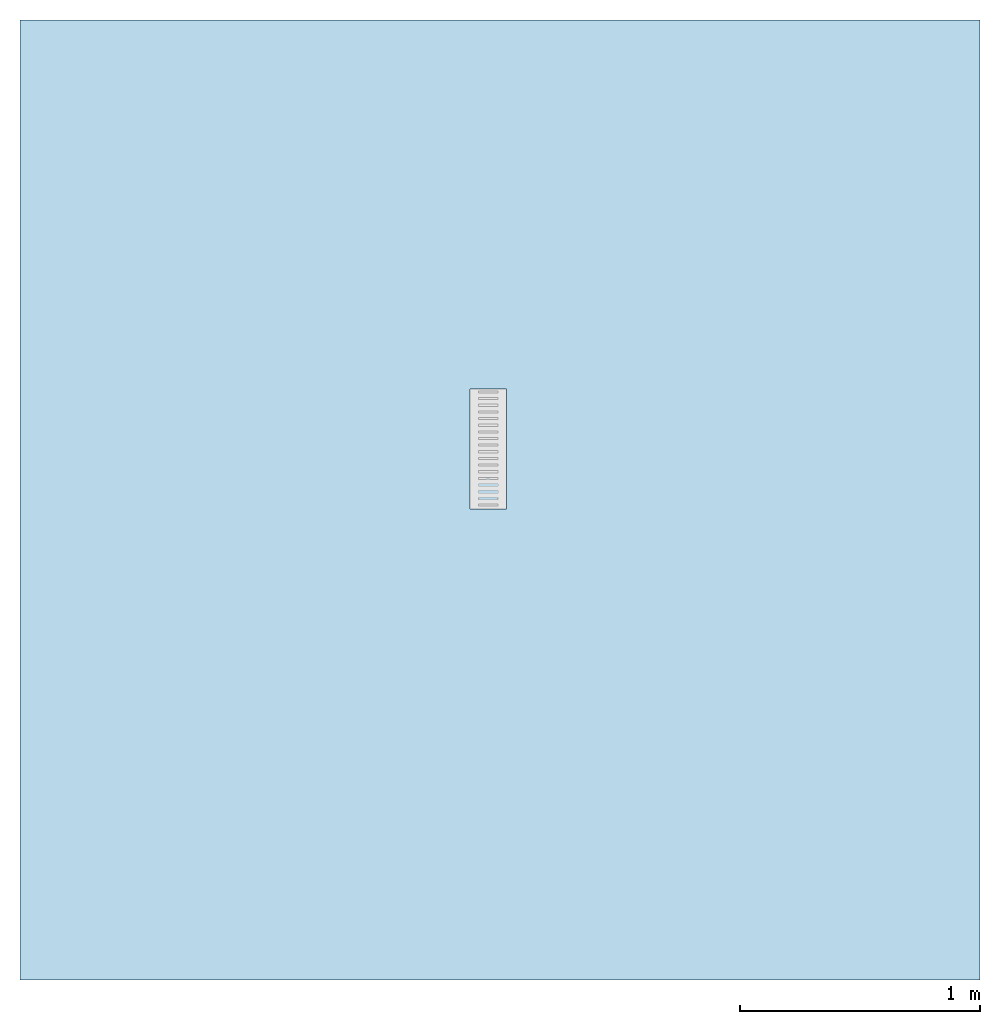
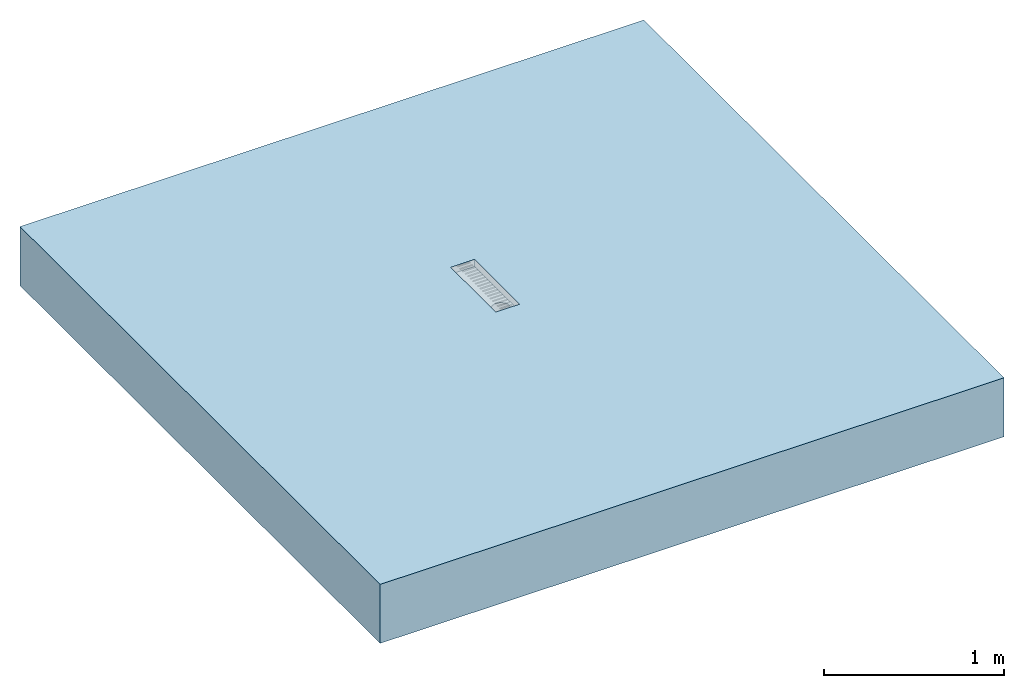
# One storey, incomplete: 1 slab, 1 opening.
"""IFC2X3 building model written with IfcOpenShell, lengths in millimetres."""

from ifc_helpers import new_model, entity, si_unit, converted_unit, direction, frame, frame_2d, origin, place, context, subcontext, project, spatial, rectangle, extrude, faceted_brep, material, layer, layer_set, layer_usage, element, save


model = new_model("IFC2X3")

# Units and contexts
model_context = context("Model", 3, precision=1e-06, world=origin(), true_north=direction((2.0, 6.12303176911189e-17, 1.0)))
context_of_model = context(None, 3, precision=1e-06, world=origin(), true_north=direction((2.0, 6.12303176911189e-17, 1.0)))
body_context = subcontext(model_context, "Body", "Model", "MODEL_VIEW")
ifc_project = project(units=[si_unit("LENGTHUNIT", "METRE", prefix="MILLI"), si_unit("AREAUNIT", "SQUARE_METRE", prefix="MILLI"), si_unit("VOLUMEUNIT", "CUBIC_METRE", prefix="MILLI"), converted_unit("PLANEANGLEUNIT", "DEGREE", entity("IfcRatioMeasure", 0.0174532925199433), si_unit("PLANEANGLEUNIT", "RADIAN"), dimensions=[0, 0, 0, 0, 0, 0, 0]), si_unit("TIMEUNIT", "SECOND")], contexts=[model_context, context_of_model])

# Site, building, storey
site_placement = place(None, origin())
site = spatial("IfcSite", under=ifc_project, at=site_placement, Name="Default", CompositionType="ELEMENT")
building_placement = place(site_placement, origin())
building = spatial("IfcBuilding", under=site, at=building_placement, CompositionType="ELEMENT")
storey_placement = place(building_placement, origin())
storey = spatial("IfcBuildingStorey", under=building, at=storey_placement, Name="Level 1", CompositionType="ELEMENT", Elevation=0.0)

# Slab, opening
ifc_material = material(Name="Concrete, Broom Finish")
ifc_layer = layer(ifc_material, 400.0)
ifc_layer_set = layer_set([ifc_layer], Name="Floor:Generic Floor - 400mm")
ifc_layer_usage = layer_usage(ifc_layer_set, "AXIS3", "POSITIVE", 0.0)
slab_placement = place(storey_placement, origin())
slab = element("IfcSlab", 1, at=slab_placement, inside=storey, material=ifc_layer_usage, Name="Floor:Generic Floor - 400mm", ObjectType="Floor:Generic Floor - 400mm", PredefinedType="FLOOR", context=body_context, shape_type="SweptSolid", body=[
    extrude(rectangle(XDim=4000.0, YDim=4000.0, at=frame_2d((0.0, 0.0), x_axis=(0.0, -1.0))), frame((-42.176138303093, 0.318612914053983, 0.0), z_axis=(0.0, 0.0, -1.0), x_axis=(-1.0, 0.0, 0.0)), (0.0, 0.0, 1.0), 400.0),
])
opening_placement = place(slab_placement, frame((-167.978791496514, -37.0934630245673, -166.999997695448)))
element("IfcOpeningElement", 2, at=opening_placement, cuts=slab, ObjectType="Recess", context=body_context, shape_type="Brep", body=[
    faceted_brep([(0.0, 0.0, 120.194915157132), (153.0, 0.0, 167.000007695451), (153.0, 0.0, 120.194915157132), (0.0, 0.0, 167.000007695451), (153.0, 500.0, 120.194915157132), (0.0, 500.0, 167.000007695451), (0.0, 500.0, 120.194915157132), (153.0, 500.0, 167.000007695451), (76.4999999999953, 20.0, 120.194915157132), (62.2649525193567, 21.8740795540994, 120.194915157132), (49.0, 27.3686027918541, 120.194915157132), (28.8686027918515, 47.4999999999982, 120.194915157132), (23.3740795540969, 60.7649525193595, 120.194915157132), (37.6091270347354, 36.1091270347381, 120.194915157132), (21.4999999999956, 75.0, 120.194915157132), (104.0, 27.3686027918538, 120.194915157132), (90.7350474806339, 21.8740795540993, 120.194915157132), (115.390872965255, 36.1091270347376, 120.194915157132), (124.13139720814, 47.4999999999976, 120.194915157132), (131.499999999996, 75.0, 120.194915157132), (129.625920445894, 60.7649525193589, 120.194915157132), (129.625920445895, 89.2350474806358, 120.194915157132), (23.3740795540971, 89.2350474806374, 120.194915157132), (28.8686027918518, 102.499999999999, 120.194915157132), (49.0, 122.631397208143, 120.194915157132), (37.6091270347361, 113.890872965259, 120.194915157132), (62.2649525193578, 128.125920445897, 120.194915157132), (76.4999999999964, 130.0, 120.194915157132), (115.390872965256, 113.890872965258, 120.194915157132), (124.13139720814, 102.499999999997, 120.194915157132), (90.7350474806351, 128.125920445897, 120.194915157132), (104.0, 122.631397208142, 120.194915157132), (76.4999999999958, 130.0, 0.0), (28.8686027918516, 102.499999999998, 0.0), (90.7350474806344, 128.125920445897, 0.0), (104.0, 122.631397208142, 0.0), (115.390872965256, 113.890872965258, 0.0), (129.625920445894, 89.2350474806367, 0.0), (124.13139720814, 102.499999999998, 0.0), (23.3740795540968, 60.7649525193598, 0.0), (62.2649525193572, 128.125920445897, 0.0), (49.0, 122.631397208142, 0.0), (37.6091270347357, 113.890872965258, 0.0), (21.4999999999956, 75.0, 0.0), (23.3740795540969, 89.235047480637, 0.0), (129.625920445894, 60.7649525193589, 0.0), (124.131397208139, 47.4999999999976, 0.0), (28.8686027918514, 47.4999999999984, 0.0), (76.4999999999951, 20.0, 0.0), (104.0, 27.3686027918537, 0.0), (115.390872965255, 36.1091270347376, 0.0), (90.7350474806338, 21.8740795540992, 0.0), (37.6091270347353, 36.1091270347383, 0.0), (62.2649525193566, 21.8740795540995, 0.0), (49.0, 27.3686027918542, 0.0), (131.499999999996, 75.0, 0.0)], [[[0, 1, 2]], [[1, 0, 3]], [[4, 5, 6]], [[5, 4, 7]], [[7, 1, 3]], [[3, 5, 7]], [[6, 3, 0]], [[3, 6, 5]], [[8, 9, 0]], [[10, 0, 9]], [[2, 8, 0]], [[0, 11, 12]], [[0, 10, 13]], [[0, 13, 11]], [[12, 14, 0]], [[15, 16, 2]], [[8, 2, 16]], [[17, 15, 2]], [[2, 18, 17]], [[2, 19, 20]], [[2, 20, 18]], [[21, 19, 2]], [[22, 0, 14]], [[6, 22, 23]], [[24, 6, 25]], [[23, 25, 6]], [[6, 24, 26]], [[26, 27, 6]], [[22, 6, 0]], [[4, 28, 29]], [[4, 29, 21]], [[4, 27, 30]], [[28, 4, 31]], [[30, 31, 4]], [[4, 6, 27]], [[2, 4, 21]], [[7, 2, 1]], [[2, 7, 4]], [[32, 33, 34]], [[35, 34, 36]], [[37, 38, 36]], [[33, 36, 34]], [[33, 39, 36]], [[40, 41, 32]], [[41, 42, 32]], [[43, 39, 44]], [[33, 32, 42]], [[39, 33, 44]], [[37, 36, 39]], [[45, 37, 46]], [[46, 37, 47]], [[48, 49, 46]], [[50, 46, 49]], [[49, 48, 51]], [[52, 53, 47]], [[47, 37, 39]], [[54, 53, 52]], [[53, 46, 47]], [[46, 53, 48]], [[55, 37, 45]], [[21, 37, 55]], [[34, 35, 31]], [[36, 28, 35]], [[32, 34, 30]], [[21, 29, 37]], [[55, 19, 21]], [[29, 28, 38]], [[28, 36, 38]], [[31, 35, 28]], [[31, 30, 34]], [[37, 29, 38]], [[30, 27, 32]], [[41, 40, 26]], [[41, 24, 42]], [[44, 33, 23]], [[25, 33, 42]], [[43, 44, 22]], [[27, 26, 40]], [[26, 24, 41]], [[24, 25, 42]], [[43, 22, 14]], [[33, 25, 23]], [[23, 22, 44]], [[32, 27, 40]], [[47, 39, 12]], [[47, 11, 52]], [[53, 54, 10]], [[13, 54, 52]], [[48, 53, 9]], [[43, 14, 39]], [[14, 12, 39]], [[12, 11, 47]], [[11, 13, 52]], [[54, 13, 10]], [[10, 9, 53]], [[9, 8, 48]], [[49, 51, 16]], [[49, 15, 50]], [[45, 46, 18]], [[17, 46, 50]], [[55, 45, 20]], [[8, 16, 51]], [[16, 15, 49]], [[15, 17, 50]], [[55, 20, 19]], [[46, 17, 18]], [[18, 20, 45]], [[48, 8, 51]]]),
])

save(model, "model.ifc")
